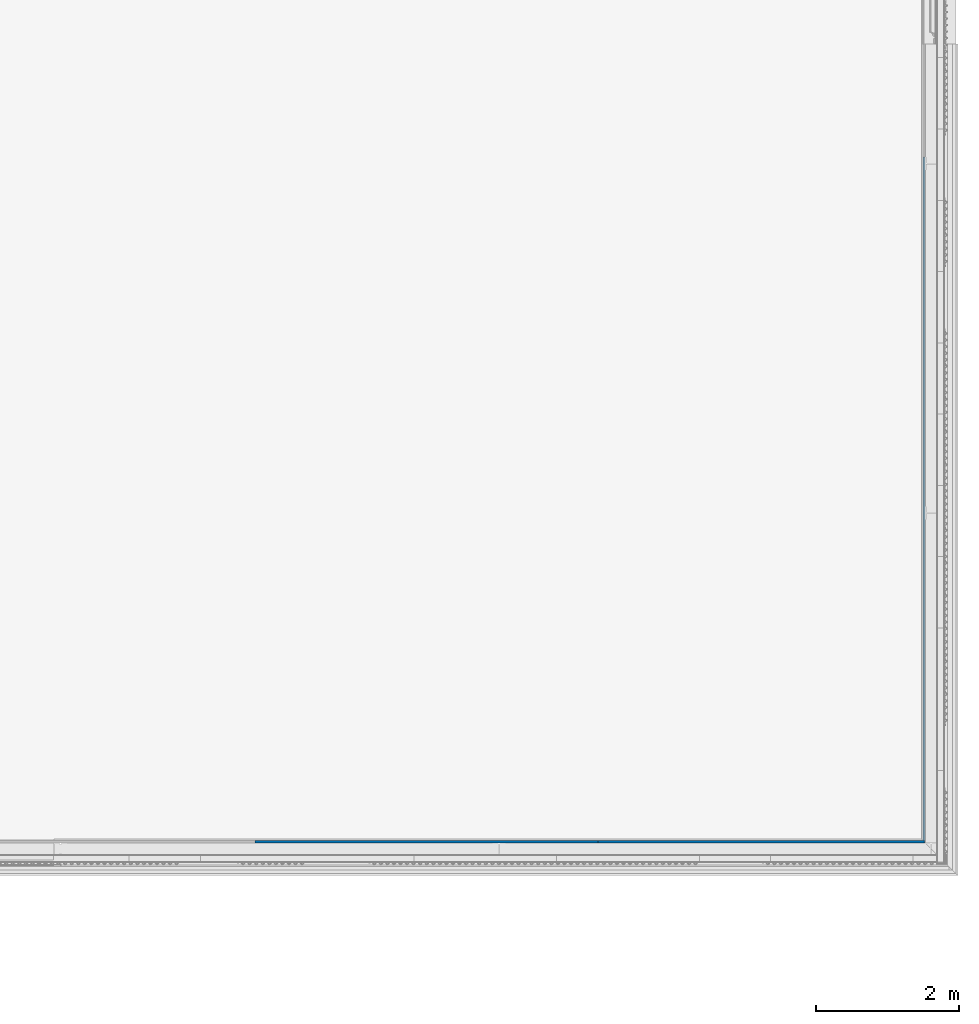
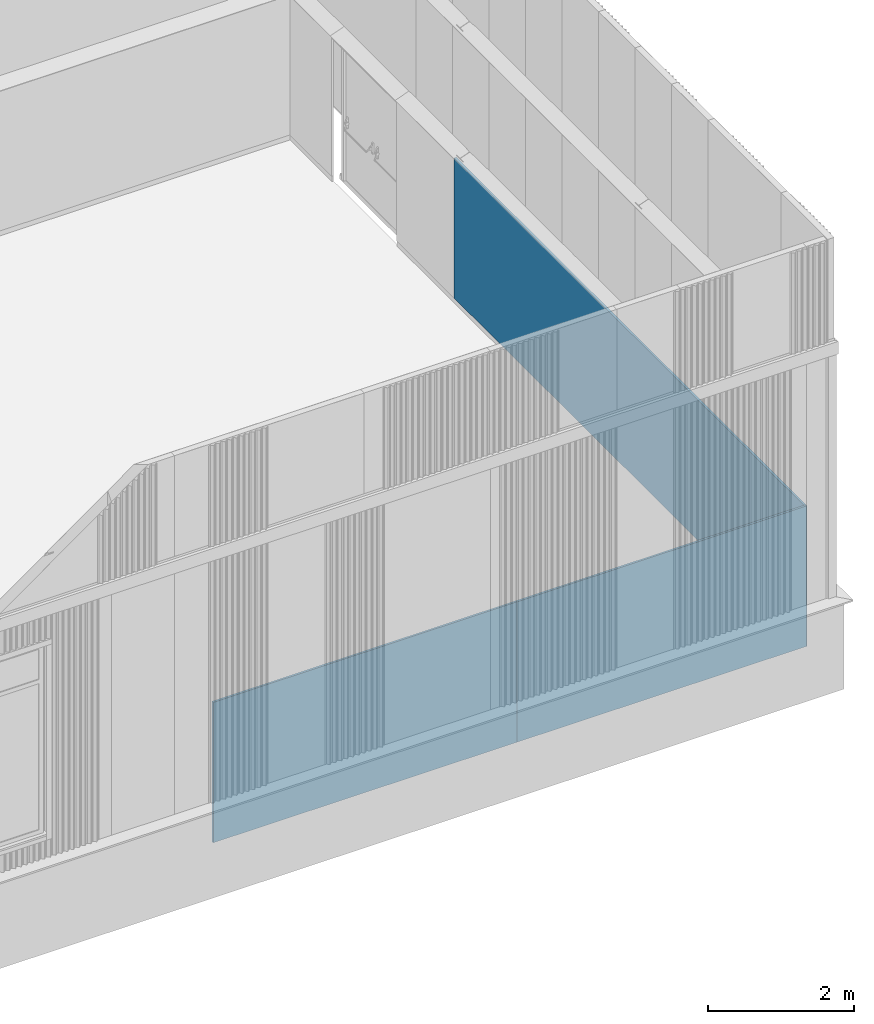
# One storey, part 47 of 338: 3 walls.
"""IFC2X3 building model written with IfcOpenShell, lengths in millimetres."""

from ifc_helpers import new_model, entity, si_unit, converted_unit, derived_unit, money_unit, direction, frame, origin_with_axes, place, context, subcontext, project, spatial, faceted_brep, material, type_object, element, save


model = new_model("IFC2X3")

# Units and contexts
model_context = context("Model", 3, precision=0.01, world=origin_with_axes(), true_north=direction((0.0, 1.0)))
plan_context = context("Plan", 3, precision=0.01, world=origin_with_axes(), true_north=direction((0.0, 1.0)))
body_context = subcontext(model_context, "Body", "Model", "MODEL_VIEW")
ifc_project = project(units=[si_unit("LENGTHUNIT", "METRE", prefix="MILLI"), si_unit("AREAUNIT", "SQUARE_METRE"), si_unit("VOLUMEUNIT", "CUBIC_METRE"), converted_unit("PLANEANGLEUNIT", "DEGREE", entity("IfcPlaneAngleMeasure", 0.0174532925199), si_unit("PLANEANGLEUNIT", "RADIAN"), dimensions=[0, 0, 0, 0, 0, 0, 0]), money_unit("EUR"), converted_unit("TIMEUNIT", "Year", entity("IfcTimeMeasure", 31556926.0), si_unit("TIMEUNIT", "SECOND"), dimensions=[0, 0, 1, 0, 0, 0, 0]), si_unit("MASSUNIT", "GRAM", prefix="KILO"), si_unit("THERMODYNAMICTEMPERATUREUNIT", "DEGREE_CELSIUS"), si_unit("LUMINOUSINTENSITYUNIT", "LUMEN"), si_unit("ENERGYUNIT", "JOULE", prefix="MEGA"), derived_unit("THERMALCONDUCTANCEUNIT", [(si_unit("POWERUNIT", "WATT"), 1), (si_unit("LENGTHUNIT", "METRE"), -1), (si_unit("THERMODYNAMICTEMPERATUREUNIT", "KELVIN"), -1)]), derived_unit("SPECIFICHEATCAPACITYUNIT", [(si_unit("ENERGYUNIT", "JOULE"), 1), (si_unit("MASSUNIT", "GRAM", prefix="KILO"), -1), (si_unit("THERMODYNAMICTEMPERATUREUNIT", "KELVIN"), -1)]), derived_unit("MASSDENSITYUNIT", [(si_unit("MASSUNIT", "GRAM", prefix="KILO"), 1), (si_unit("VOLUMEUNIT", "CUBIC_METRE"), -1)])], contexts=[model_context, plan_context])

# Site, building, storey
site_placement = place(None, origin_with_axes())
site = spatial("IfcSite", under=ifc_project, at=site_placement, Name="Fortuinstraat Woensdrecht", CompositionType="ELEMENT")
building_placement = place(site_placement, origin_with_axes())
building = spatial("IfcBuilding", under=site, at=building_placement, Name="IKC Fortuna", CompositionType="ELEMENT")
storey_placement = place(building_placement, origin_with_axes())
storey = spatial("IfcBuildingStorey", under=building, at=storey_placement, Name="00 begane grond", CompositionType="ELEMENT", Elevation=0.0)

# Walls
ifc_material = material(Name="42 Vilton Isonic Wool")
wall_type = type_object("IfcWallType", Name="42 Vilton Isonic Wool 33", PredefinedType="NOTDEFINED")
wall_1_placement = place(storey_placement, frame((49863.4270571, 21167.1497818, 90.0), z_axis=(0.0, 0.0, 1.0), x_axis=(1.0, 0.0, 0.0)))
element("IfcWall", 1, at=wall_1_placement, inside=storey, type_object=wall_type, material=ifc_material, Name="22_Wand_KZST", context=body_context, shape_type="Brep", body=[
    faceted_brep([(0.0, 0.0, 2350.0), (3330.00000006, 0.0, 2350.0), (3330.00000006, 0.146846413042, 2350.0), (3510.00000006, 0.146846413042, 2350.0), (3510.00000006, 0.0, 2350.0), (4810.0, 0.0, 2350.0), (4810.0, 33.0, 2350.0), (0.0, 33.0, 2350.0), (0.0, 0.0, 0.0), (3330.00000006, 0.0, 0.0), (3330.00000006, 0.146846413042, 0.0), (3510.00000006, 0.146846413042, 0.0), (3510.00000006, 0.0, 0.0), (4810.0, 0.0, 0.0), (4810.0, 33.0, 0.0), (0.0, 33.0, 0.0)], [[[0, 1, 2, 3, 4, 5, 6, 7]], [[8, 9, 1, 0]], [[10, 2, 1, 9]], [[11, 3, 2, 10]], [[12, 4, 3, 11]], [[5, 4, 12, 13]], [[14, 6, 5, 13]], [[15, 7, 6, 14]], [[15, 8, 0, 7]], [[11, 10, 9, 8, 15, 14, 13, 12]]]),
])
wall_2_placement = place(storey_placement, frame((54673.4270571, 21167.1497818, 90.0), z_axis=(0.0, 0.0, 1.0), x_axis=(1.0, 0.0, 0.0)))
element("IfcWall", 2, at=wall_2_placement, inside=storey, type_object=wall_type, material=ifc_material, Name="22_Wand_KZST", context=body_context, shape_type="Brep", body=[
    faceted_brep([(4580.00000006, 33.0, 2350.0), (0.0, 33.0, 2350.0), (0.0, 0.0, 2350.0), (4580.00000006, 0.0, 2350.0), (4580.00000006, 33.0, 0.0), (0.0, 33.0, 0.0), (0.0, 0.0, 0.0), (4580.00000006, 0.0, 0.0)], [[[0, 1, 2, 3]], [[4, 5, 1, 0]], [[1, 5, 6, 2]], [[3, 2, 6, 7]], [[7, 4, 0, 3]], [[7, 6, 5, 4]]]),
])
wall_3_placement = place(storey_placement, frame((59262.4270571, 21167.2966283, 90.0), z_axis=(0.0, 0.0, 1.0), x_axis=(0.0, 1.0, 0.0)))
element("IfcWall", 3, at=wall_3_placement, inside=storey, type_object=wall_type, material=ifc_material, Name="22_Wand_Vilton Isonic Wool", context=body_context, shape_type="Brep", body=[
    faceted_brep([(9618.99999998, 33.0, 2350.0), (0.0, 33.0, 2350.0), (0.0, 0.0, 2350.0), (9618.99999998, 0.0, 2350.0), (9618.99999998, 33.0, 0.0), (0.0, 33.0, 0.0), (0.0, 0.0, 0.0), (9618.99999998, 0.0, 0.0)], [[[0, 1, 2, 3]], [[4, 5, 1, 0]], [[1, 5, 6, 2]], [[3, 2, 6, 7]], [[7, 4, 0, 3]], [[7, 6, 5, 4]]]),
])

save(model, "model.ifc")
